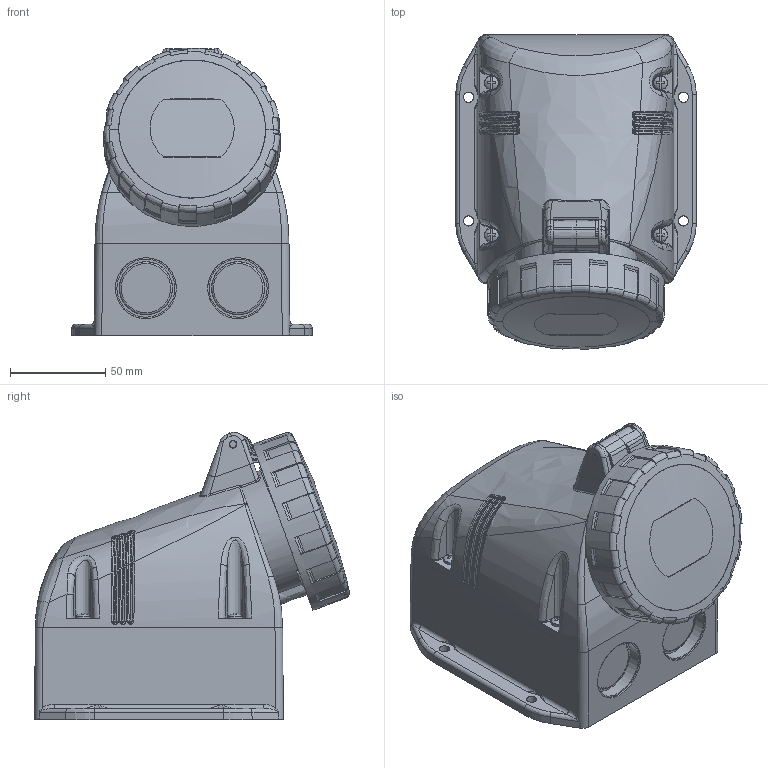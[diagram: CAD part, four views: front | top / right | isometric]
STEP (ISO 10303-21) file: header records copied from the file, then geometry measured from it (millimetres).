
FILE_DESCRIPTION(/* description */ (''),/* implementation_level */ '2;1');
FILE_NAME(/* name */ '4001834.stp',/* time_stamp */ '2019-10-17T08:07:36+02:00',/* author */ (''),/* organization */ (''),/* preprocessor_version */ 'ST-DEVELOPER v16.7',/* originating_system */ 'SIEMENS PLM Software NX 1884',/* authorisation */ '');
FILE_SCHEMA (('AUTOMOTIVE_DESIGN { 1 0 10303 214 3 1 1 1 }'));
Products named in the file (1): BSOMDDD8164Di99v
Bounding box: 126.5 x 165.59 x 151.2 mm (x, y, z)
Volume: 284492.9 mm3; surface area: 246652.6 mm2
Topology: 9 solids, 9 shells, 2665 faces, 6711 edges, 4027 vertices
Faces by surface type: plane 816, bspline 793, cylinder 654, cone 213, sphere 88, torus 81, extrusion 20
Full cylindrical faces by diameter (mm): 3 x8, 3.5 x4, 4 x9, 5 x1, 6 x2, 7.5 x4, 30.5 x3, 32 x3, 57.2 x1, 77.2 x1, 77.3 x1, 87.3 x1
Entity records: 138013 total; most frequent: CARTESIAN_POINT 81132, ORIENTED_EDGE 12884, DIRECTION 9979, EDGE_CURVE 6442, VERTEX_POINT 3984, AXIS2_PLACEMENT_3D 3800, EDGE_LOOP 2882, ADVANCED_FACE 2665
